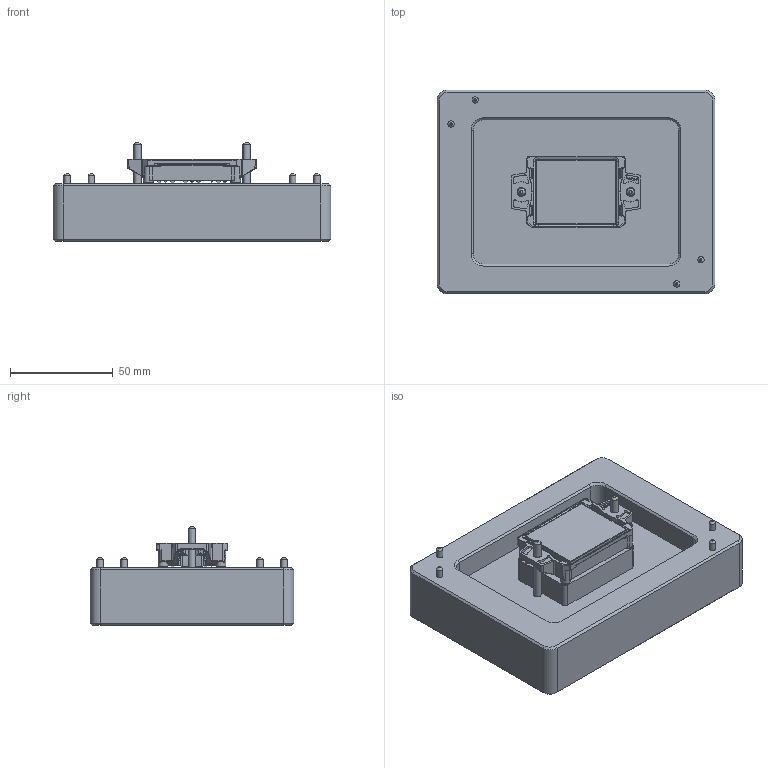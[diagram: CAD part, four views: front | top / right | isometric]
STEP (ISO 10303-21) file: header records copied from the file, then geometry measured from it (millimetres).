
FILE_DESCRIPTION(/* description */ ('Unknown','CAx-IF Rec.Pracs.---Representation and Presentation of Product Manufacturing Information (PMI)---4.0---2014-10-13','CAx-IF Rec.Pracs.---3D Tessellated Geometry---0.4---2014-09-14','2;1'),/* implementation_level */ '2;1');
FILE_NAME(/* name */ 'flowE1-Bottom',/* time_stamp */ '2026-01-13T13:36:44+01:00',/* author */ ('Unknown'),/* organization */ ('Unknown'),/* preprocessor_version */ 'ST-DEVELOPER v20',/* originating_system */ 'Solid Edge',/* authorisation */ 'Unknown');
FILE_SCHEMA (('AP242_MANAGED_MODEL_BASED_3D_ENGINEERING_MIM_LF { 1 0 10303 442 1 1 4 }'));
Products named in the file (5): L310; bottom_ex; poz_csap; poz_csap_nyak; module
Assembly tree (8 placements, depth 2):
  L310
    bottom_ex
    poz_csap  x2
    poz_csap_nyak  x4
    module
Bounding box: 135 x 99 x 48 mm (x, y, z)
Volume: 322708.4 mm3; surface area: 56380.3 mm2
Topology: 8 solids, 8 shells, 2584 faces, 6385 edges, 3938 vertices
Faces by surface type: plane 1296, cylinder 689, cone 438, bspline 115, torus 28, sphere 18
Full cylindrical faces by diameter (mm): 3 x12, 3.5 x2, 4.3 x2, 6.05 x2, 7 x1
Entity records: 94009 total; most frequent: CARTESIAN_POINT 15782, DIRECTION 12898, ORIENTED_EDGE 12580, EDGE_CURVE 6290, AXIS2_PLACEMENT_3D 4461, LINE 3976, VECTOR 3976, VERTEX_POINT 3910
